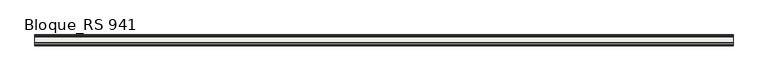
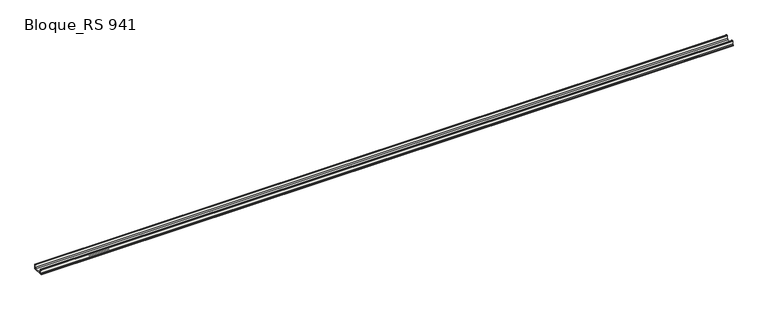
"""IFC4 building model written with IfcOpenShell, lengths in millimetres: slab geometry, ROSA GRES_RS 941 : Bloque_RS 941."""

from ifc_helpers import new_model, si_unit, point, frame, frame_2d, origin, place, context, project, spatial, polyline, circle_curve, trimmed, segment, composite_curve, outline, extrude, source, transform, mapped, element, save


def bloque_rs_941_323a77be(model_context):
    return source(origin(), model_context, "Body", "SweptSolid", [
        extrude(outline(composite_curve([segment(trimmed(circle_curve(frame_2d((290.0102563, 121.0098178)), 4.9901918), [point((290.0004385, 126.0))], [point((295.0004385, 121.0))], False, "CARTESIAN"), True, "CONTINUOUS"), segment(polyline([(295.0004385, 121.0), (295.0004385, 0.0), (15.0, 0.0), (15.0, 32.0012714), (22.0000003, 44.0), (22.0000003, 121.0)]), True, "CONTINUOUS"), segment(trimmed(circle_curve(frame_2d((27.0000003, 121.0)), 5.0), [point((22.0000003, 121.0))], [point((27.0000003, 126.0))], False, "CARTESIAN"), True, "CONTINUOUS"), segment(polyline([(27.0000003, 126.0), (53.3276984, 126.0)]), True, "CONTINUOUS"), segment(trimmed(circle_curve(frame_2d((53.3404956, 121.0174239)), 4.9825925), [point((53.3276984, 126.0))], [point((58.098681, 122.4959025))], False, "CARTESIAN"), True, "CONTINUOUS"), segment(polyline([(58.098681, 122.4959025), (83.1743169, 42.5204875)]), True, "CONTINUOUS"), segment(trimmed(circle_curve(frame_2d((106.8431931, 49.7467022)), 24.7474015), [point((83.1743169, 42.5204875))], [point((107.0292302, 25.0))], True, "CARTESIAN"), True, "CONTINUOUS"), segment(polyline([(107.0292302, 25.0), (245.9504385, 25.0)]), True, "CONTINUOUS"), segment(trimmed(circle_curve(frame_2d((246.0603718, 49.9398968)), 24.9401391), [point((245.9504385, 25.0))], [point((271.0004385, 50.0))], True, "CARTESIAN"), True, "CONTINUOUS"), segment(polyline([(271.0004385, 50.0), (271.0004385, 121.221769)]), True, "CONTINUOUS"), segment(trimmed(circle_curve(frame_2d((275.9926846, 121.0029619)), 4.9970389), [point((271.0004385, 121.221769))], [point((275.9955179, 126.0))], False, "CARTESIAN"), True, "CONTINUOUS"), segment(polyline([(275.9955179, 126.0), (290.0004385, 126.0)]), True, "CONTINUOUS")], self_intersect=False)), frame((0.0, 0.0, 0.0), z_axis=(1.0, 0.0, 0.0), x_axis=(0.0, 1.0, 0.0)), (0.0, 0.0, 1.0), 17999.9999947),
    ])


if __name__ == "__main__":
    model = new_model("IFC4")
    model_context = context("Model", 3, world=origin())
    ifc_project = project(units=[si_unit("LENGTHUNIT", "METRE", prefix="MILLI")], contexts=[model_context])
    site = spatial("IfcSite", under=ifc_project)
    building = spatial("IfcBuilding", under=site)
    placement = place(None, origin())
    bloque_rs_941_shape = bloque_rs_941_323a77be(model_context)
    element("IfcSlab", 1, ObjectType="ROSA GRES_RS 941 : Bloque_RS 941", at=placement, inside=building, context=model_context, shape_type="MappedRepresentation", body=[
        mapped(bloque_rs_941_shape, transform((0.0, 0.0, 0.0), x_axis=(1.0, 0.0, 0.0), y_axis=(0.0, 1.0, 0.0), z_axis=(0.0, 0.0, 1.0))),
    ])
    save(model, "model.ifc")
